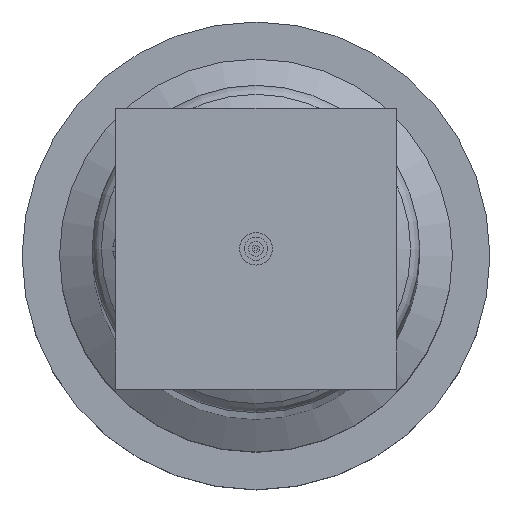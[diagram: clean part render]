
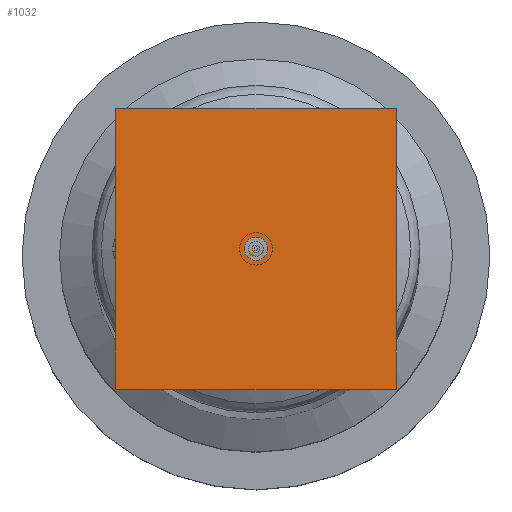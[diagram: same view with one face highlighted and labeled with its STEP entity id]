
A CAD part, top view. The second image highlights one B-rep face of the part: STEP entity #1032.
In plain terms, the highlighted planar face has unit normal (0, 0, -1).
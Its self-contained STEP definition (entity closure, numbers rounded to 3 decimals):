
#178 = PLANE ( 'NONE',  #3072 ) ;
#426 = VERTEX_POINT ( 'NONE', #2241 ) ;
#449 = DIRECTION ( 'NONE',  ( 0., -1., 0. ) ) ;
#641 = LINE ( 'NONE', #3042, #5782 ) ;
#719 = CARTESIAN_POINT ( 'NONE',  ( 15., 15., 465. ) ) ;
#1032 = ADVANCED_FACE ( 'NONE', ( #4429 ), #178, .T. ) ;
#1233 = EDGE_CURVE ( 'NONE', #1715, #1759, #641, .T. ) ;
#1442 = ORIENTED_EDGE ( 'NONE', *, *, #5806, .T. ) ;
#1715 = VERTEX_POINT ( 'NONE', #4732 ) ;
#1759 = VERTEX_POINT ( 'NONE', #719 ) ;
#2099 = ORIENTED_EDGE ( 'NONE', *, *, #3894, .T. ) ;
#2241 = CARTESIAN_POINT ( 'NONE',  ( 15., -15., 465. ) ) ;
#2452 = EDGE_LOOP ( 'NONE', ( #1442, #3306, #2099, #2679 ) ) ;
#2679 = ORIENTED_EDGE ( 'NONE', *, *, #1233, .T. ) ;
#2994 = CARTESIAN_POINT ( 'NONE',  ( -15., -15., 465. ) ) ;
#3007 = DIRECTION ( 'NONE',  ( -1., 0., 0. ) ) ;
#3016 = DIRECTION ( 'NONE',  ( 0., 1., 0. ) ) ;
#3042 = CARTESIAN_POINT ( 'NONE',  ( 15., 15., 465. ) ) ;
#3072 = AXIS2_PLACEMENT_3D ( 'NONE', #3704, #3640, #4751 ) ;
#3306 = ORIENTED_EDGE ( 'NONE', *, *, #4707, .T. ) ;
#3337 = LINE ( 'NONE', #4420, #5058 ) ;
#3386 = VECTOR ( 'NONE', #3007, 1000. ) ;
#3527 = VECTOR ( 'NONE', #3016, 1000. ) ;
#3529 = LINE ( 'NONE', #6514, #3386 ) ;
#3534 = DIRECTION ( 'NONE',  ( 1., 0., 0. ) ) ;
#3640 = DIRECTION ( 'NONE',  ( 0., 0., -1. ) ) ;
#3704 = CARTESIAN_POINT ( 'NONE',  ( 0., 0., 465. ) ) ;
#3894 = EDGE_CURVE ( 'NONE', #5415, #1715, #4799, .T. ) ;
#4420 = CARTESIAN_POINT ( 'NONE',  ( 15., 15., 465. ) ) ;
#4429 = FACE_OUTER_BOUND ( 'NONE', #2452, .T. ) ;
#4521 = CARTESIAN_POINT ( 'NONE',  ( -15., 15., 465. ) ) ;
#4707 = EDGE_CURVE ( 'NONE', #426, #5415, #3529, .T. ) ;
#4732 = CARTESIAN_POINT ( 'NONE',  ( -15., 15., 465. ) ) ;
#4751 = DIRECTION ( 'NONE',  ( -1., 0., 0. ) ) ;
#4799 = LINE ( 'NONE', #4521, #3527 ) ;
#5058 = VECTOR ( 'NONE', #449, 1000. ) ;
#5415 = VERTEX_POINT ( 'NONE', #2994 ) ;
#5782 = VECTOR ( 'NONE', #3534, 1000. ) ;
#5806 = EDGE_CURVE ( 'NONE', #1759, #426, #3337, .T. ) ;
#6514 = CARTESIAN_POINT ( 'NONE',  ( 15., -15., 465. ) ) ;
